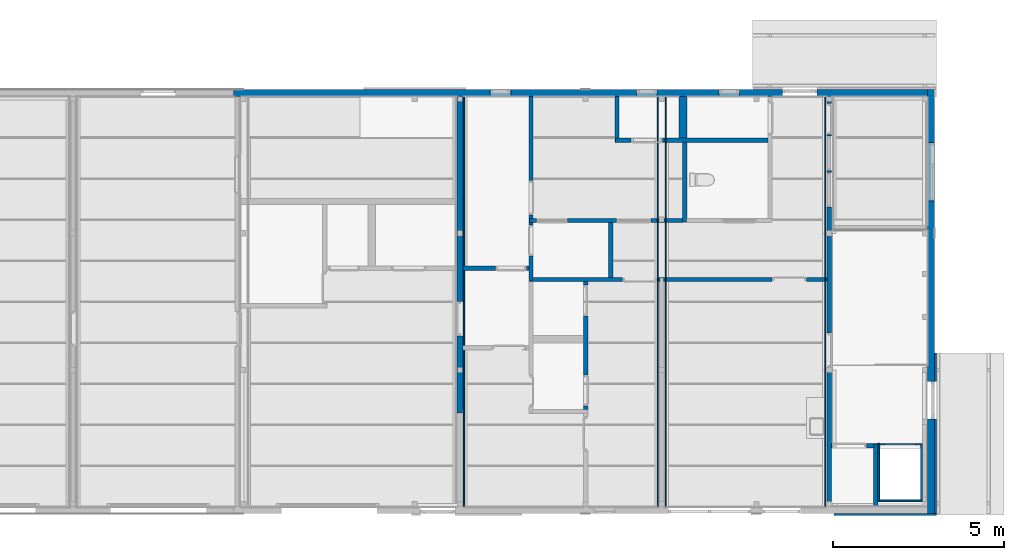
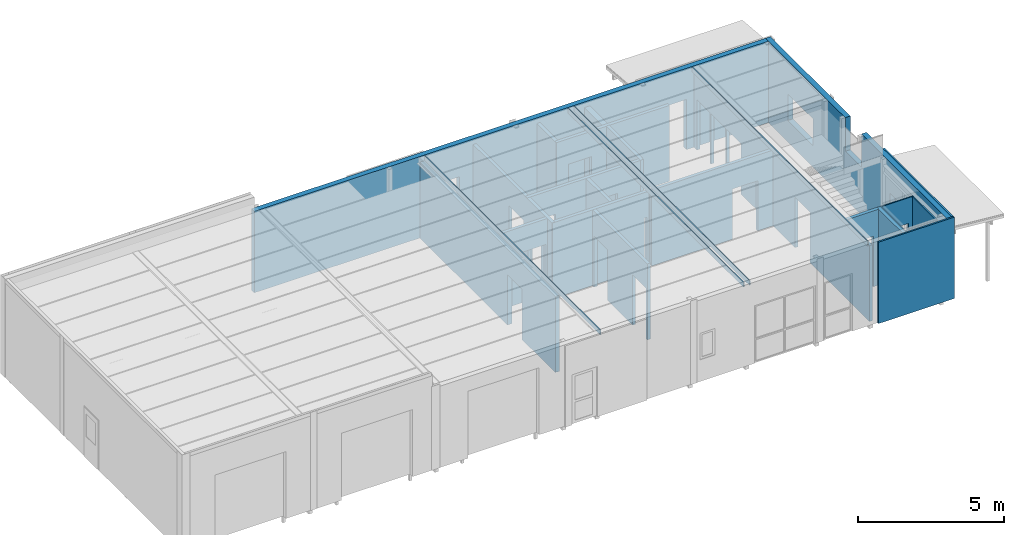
# One storey, part 3 of 45: 27 walls, 25 openings.
"""IFC2X3 building model written with IfcOpenShell, lengths in millimetres."""

from ifc_helpers import new_model, entity, si_unit, converted_unit, frame, frame_2d, origin, origin_with_axes, place, context, subcontext, project, spatial, polyline, rectangle, outline, extrude, material, layer, layer_set, layer_usage, element, save


model = new_model("IFC2X3")

# Units and contexts
model_context = context("Model", 3, precision=1e-05, world=origin())
plan_context = context("Plan", 3, precision=1e-05, world=origin())
body_context = subcontext(model_context, "Body", "Model", "MODEL_VIEW")
ifc_project = project(units=[si_unit("LENGTHUNIT", "METRE", prefix="MILLI"), converted_unit("PLANEANGLEUNIT", "DEGREE", entity("IfcPlaneAngleMeasure", 0.0174532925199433), si_unit("PLANEANGLEUNIT", "RADIAN"), dimensions=[0, 0, 0, 0, 0, 0, 0]), si_unit("AREAUNIT", "SQUARE_METRE"), si_unit("VOLUMEUNIT", "CUBIC_METRE")], contexts=[model_context, plan_context])

# Building, storey
building_placement = place(None, origin())
building = spatial("IfcBuilding", under=ifc_project, at=building_placement, Name="HEKF Administrasjonbygg", CompositionType="ELEMENT")
storey_placement = place(building_placement, frame((0.0, 0.0, 6500.0), z_axis=(0.0, 0.0, 1.0), x_axis=(1.0, 0.0, 0.0)))
storey = spatial("IfcBuildingStorey", under=building, at=storey_placement, Name="Plan 1", CompositionType="ELEMENT", Elevation=6500.0)

# Wall, openings
ifc_material_1 = material(Name="Paroc 200")
ifc_layer_1 = layer(ifc_material_1, 200.0)
ifc_layer_set_1 = layer_set([ifc_layer_1])
ifc_layer_usage_1 = layer_usage(ifc_layer_set_1, "AXIS2", "POSITIVE", 0.0)
wall_1_placement = place(storey_placement, frame((30000.0, 200.0, 0.0), z_axis=(0.0, 0.0, 1.0), x_axis=(0.0, -1.0, 0.0)))
wall_1 = element("IfcWallStandardCase", 1, at=wall_1_placement, inside=storey, material=ifc_layer_usage_1, context=body_context, shape_type="SweptSolid", body=[
    extrude(rectangle(XDim=12400.0, YDim=200.0, at=frame_2d((6200.000000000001, 100.0), x_axis=(1.0, 0.0))), origin_with_axes(), (0.0, 0.0, 1.0), 3400.0),
])
opening_1_placement = place(wall_1_placement, frame((5466.053432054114, 0.0, 2000.0), z_axis=(0.0, 1.0, 0.0), x_axis=(0.0, 0.0, 1.0)))
element("IfcOpeningElement", 2, at=opening_1_placement, cuts=wall_1, Name="V013", ObjectType="Opening", context=body_context, shape_type="SweptSolid", body=[
    extrude(rectangle(XDim=2410.0, YDim=1110.0, at=frame_2d((1205.0, 555.0), x_axis=(1.0, 0.0))), origin_with_axes(), (0.0, 0.0, 1.0), 200.0),
])
opening_2_placement = place(wall_1_placement, frame((8531.624074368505, 0.0, 0.0), z_axis=(0.0, 1.0, 0.0), x_axis=(0.0, 0.0, 1.0)))
element("IfcOpeningElement", 3, at=opening_2_placement, cuts=wall_1, Name="D003", ObjectType="Opening", context=body_context, shape_type="SweptSolid", body=[
    extrude(rectangle(XDim=2100.0, YDim=1110.0, at=frame_2d((1050.0, 555.0), x_axis=(1.0, 0.0))), origin_with_axes(), (0.0, 0.0, 1.0), 200.0),
])
opening_3_placement = place(wall_1_placement, frame((1545.561780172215, 0.0, 900.0), z_axis=(0.0, 1.0, 0.0), x_axis=(0.0, 0.0, 1.0)))
element("IfcOpeningElement", 4, at=opening_3_placement, cuts=wall_1, Name="V005", ObjectType="Opening", context=body_context, shape_type="SweptSolid", body=[
    extrude(rectangle(XDim=1110.0, YDim=1710.0, at=frame_2d((555.0, 855.0), x_axis=(1.0, 0.0))), origin_with_axes(), (0.0, 0.0, 1.0), 200.0),
])

# Wall, opening
ifc_material_2 = material(Name="Lekter")
ifc_layer_2 = layer(ifc_material_2, 46.0)
ifc_material_3 = material(Name="Kledning")
ifc_layer_3 = layer(ifc_material_3, 19.0)
ifc_layer_set_2 = layer_set([ifc_layer_2, ifc_layer_3])
ifc_layer_usage_2 = layer_usage(ifc_layer_set_2, "AXIS2", "POSITIVE", 0.0)
wall_2_placement = place(storey_placement, frame((30200.0, -7500.0, 0.0), z_axis=(0.0, 0.0, 1.0), x_axis=(0.0, -1.0, 0.0)))
wall_2 = element("IfcWallStandardCase", 5, at=wall_2_placement, inside=storey, material=ifc_layer_usage_2, context=body_context, shape_type="SweptSolid", body=[
    extrude(outline(polyline([(0.0, 0.0), (4700.000000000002, 0.0), (4700.000000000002, 46.0), (4746.000000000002, 46.0), (4746.000000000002, 65.0), (0.0, 65.0), (0.0, 0.0)])), origin_with_axes(), (0.0, 0.0, 1.0), 3400.0),
])
opening_4_placement = place(wall_2_placement, frame((830.6077025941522, 0.0, 0.0), z_axis=(0.0, 1.0, 0.0), x_axis=(0.0, 0.0, 1.0)))
element("IfcOpeningElement", 6, at=opening_4_placement, cuts=wall_2, Name="Door opening", ObjectType="Opening", context=body_context, shape_type="SweptSolid", body=[
    extrude(rectangle(XDim=2100.0, YDim=1110.0, at=frame_2d((1050.0, 555.0), x_axis=(1.0, 0.0))), origin_with_axes(), (0.0, 0.0, 1.0), 65.0),
])

# Wall
ifc_material_4 = material(Name="Lekter")
ifc_layer_4 = layer(ifc_material_4, 46.0)
ifc_material_5 = material(Name="Kledning")
ifc_layer_5 = layer(ifc_material_5, 19.0)
ifc_layer_set_3 = layer_set([ifc_layer_4, ifc_layer_5])
ifc_layer_usage_3 = layer_usage(ifc_layer_set_3, "AXIS2", "POSITIVE", 0.0)
wall_3_placement = place(storey_placement, frame((30246.0, -12200.0, 0.0), z_axis=(0.0, 0.0, 1.0), x_axis=(-1.0, 0.0, 0.0)))
element("IfcWallStandardCase", 7, at=wall_3_placement, inside=storey, material=ifc_layer_usage_3, context=body_context, shape_type="SweptSolid", body=[
    extrude(outline(polyline([(-19.0, 65.0), (-19.0, 46.0), (0.0, 46.0), (0.0, 0.0), (2981.0, 0.0), (2981.0, 65.0), (-19.0, 65.0)])), origin_with_axes(), (0.0, 0.0, 1.0), 3400.0),
])

# Wall, openings
ifc_material_6 = material(Name="Paroc 200")
ifc_layer_6 = layer(ifc_material_6, 200.0)
ifc_layer_set_4 = layer_set([ifc_layer_6])
ifc_layer_usage_4 = layer_usage(ifc_layer_set_4, "AXIS2", "POSITIVE", 0.0)
wall_4_placement = place(storey_placement, frame((9700.0, 0.0, 0.0), z_axis=(0.0, 0.0, 1.0), x_axis=(1.0, 0.0, 0.0)))
wall_4 = element("IfcWallStandardCase", 8, at=wall_4_placement, inside=storey, material=ifc_layer_usage_4, context=body_context, shape_type="SweptSolid", body=[
    extrude(rectangle(XDim=20300.0, YDim=200.0, at=frame_2d((10150.0, 100.0), x_axis=(1.0, 0.0))), origin_with_axes(), (0.0, 0.0, 1.0), 3400.0),
])
opening_5_placement = place(wall_4_placement, frame((14196.02524509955, 0.0, 900.0), z_axis=(0.0, 1.0, 0.0), x_axis=(0.0, 0.0, 1.0)))
element("IfcOpeningElement", 9, at=opening_5_placement, cuts=wall_4, Name="Window opening", ObjectType="Opening", context=body_context, shape_type="SweptSolid", body=[
    extrude(rectangle(XDim=1110.0, YDim=610.0, at=frame_2d((555.0, 305.0), x_axis=(1.0, 0.0))), origin_with_axes(), (0.0, 0.0, 1.0), 200.0),
])
opening_6_placement = place(wall_4_placement, frame((11783.83890219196, 0.0, 900.0), z_axis=(0.0, 1.0, 0.0), x_axis=(0.0, 0.0, 1.0)))
element("IfcOpeningElement", 10, at=opening_6_placement, cuts=wall_4, Name="Window opening", ObjectType="Opening", context=body_context, shape_type="SweptSolid", body=[
    extrude(rectangle(XDim=1110.0, YDim=610.0, at=frame_2d((555.0, 305.0), x_axis=(1.0, 0.0))), origin_with_axes(), (0.0, 0.0, 1.0), 200.0),
])
opening_7_placement = place(wall_4_placement, frame((7500.0, 0.0, 900.0), z_axis=(0.0, 1.0, 0.0), x_axis=(0.0, 0.0, 1.0)))
element("IfcOpeningElement", 11, at=opening_7_placement, cuts=wall_4, Name="V008", ObjectType="Opening", context=body_context, shape_type="SweptSolid", body=[
    extrude(rectangle(XDim=1110.0, YDim=610.0, at=frame_2d((555.0, 305.0), x_axis=(1.0, 0.0))), origin_with_axes(), (0.0, 0.0, 1.0), 200.0),
])
opening_8_placement = place(wall_4_placement, frame((16063.51368374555, 0.0, 0.0), z_axis=(0.0, 1.0, 0.0), x_axis=(0.0, 0.0, 1.0)))
element("IfcOpeningElement", 12, at=opening_8_placement, cuts=wall_4, Name="D004", ObjectType="Opening", context=body_context, shape_type="SweptSolid", body=[
    extrude(rectangle(XDim=2100.0, YDim=1010.0, at=frame_2d((1050.0, 505.0), x_axis=(1.0, 0.0))), origin_with_axes(), (0.0, 0.0, 1.0), 200.0),
])

# Wall, opening
ifc_material_7 = material(Name="gips")
ifc_layer_7 = layer(ifc_material_7, 13.0)
ifc_material_8 = material(Name="riegel stål 100")
ifc_layer_8 = layer(ifc_material_8, 150.0)
ifc_material_9 = material(Name="gips")
ifc_layer_9 = layer(ifc_material_9, 13.0)
ifc_layer_set_5 = layer_set([ifc_layer_7, ifc_layer_8, ifc_layer_9])
ifc_layer_usage_5 = layer_usage(ifc_layer_set_5, "AXIS2", "POSITIVE", -13.0)
wall_5_placement = place(storey_placement, frame((16237.0, -1.13686837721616e-13, 0.0), z_axis=(0.0, 0.0, 1.0), x_axis=(0.0, -1.0, 0.0)))
wall_5 = element("IfcWallStandardCase", 13, at=wall_5_placement, inside=storey, material=ifc_layer_usage_5, context=body_context, shape_type="SweptSolid", body=[
    extrude(outline(polyline([(0.0, 0.0), (2987.0, 0.0), (2987.0, 13.0), (3000.0, 13.0), (3000.0, 0.0), (9276.00000000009, 0.0), (9276.00000000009, 13.0), (9263.00000000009, 13.0), (9263.00000000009, 163.0), (9163.00000000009, 163.0), (9163.00000000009, 176.0), (0.0, 176.0), (0.0, 0.0)])), origin_with_axes(), (0.0, 0.0, 1.0), 3170.0),
])
opening_9_placement = place(wall_5_placement, frame((5989.999999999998, 0.0, 0.0), z_axis=(0.0, 1.0, 0.0), x_axis=(0.0, 0.0, 1.0)))
element("IfcOpeningElement", 14, at=opening_9_placement, cuts=wall_5, Name="garasjeport med glassfelter:45x6", ObjectType="Opening", context=body_context, shape_type="SweptSolid", body=[
    extrude(rectangle(XDim=2100.0, YDim=1010.0, at=frame_2d((1050.0, 505.0), x_axis=(1.0, 0.0))), origin_with_axes(), (0.0, 0.0, 1.0), 176.0),
])

ifc_material_10 = material(Name="gips")
ifc_layer_10 = layer(ifc_material_10, 13.0)
ifc_material_11 = material(Name="riegel stål 100")
ifc_layer_11 = layer(ifc_material_11, 100.0)
ifc_material_12 = material(Name="gips")
ifc_layer_12 = layer(ifc_material_12, 13.0)
ifc_layer_set_6 = layer_set([ifc_layer_10, ifc_layer_11, ifc_layer_12])
ifc_layer_usage_6 = layer_usage(ifc_layer_set_6, "AXIS2", "POSITIVE", 0.0)
wall_6_placement = place(storey_placement, frame((18337.0, -4961.000000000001, 0.0), z_axis=(0.0, 0.0, 1.0), x_axis=(-1.0, 3.078277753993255e-16, 0.0)))
wall_6 = element("IfcWallStandardCase", 15, at=wall_6_placement, inside=storey, material=ifc_layer_usage_6, context=body_context, shape_type="SweptSolid", body=[
    extrude(outline(polyline([(1924.0, 125.9999999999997), (-3.878629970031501e-14, 126.0), (0.0, 0.0), (1924.0, -3.172340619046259e-13), (1924.0, 125.9999999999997)])), origin_with_axes(), (0.0, 0.0, 1.0), 3170.0),
])
opening_10_placement = place(wall_6_placement, frame((63.64611840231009, 0.0, 0.0), z_axis=(0.0, 1.0, 0.0), x_axis=(0.0, 0.0, 1.0)))
element("IfcOpeningElement", 16, at=opening_10_placement, cuts=wall_6, Name="D014", ObjectType="Opening", context=body_context, shape_type="SweptSolid", body=[
    extrude(rectangle(XDim=2100.0, YDim=910.0, at=frame_2d((1050.0, 455.0), x_axis=(1.0, 0.0))), origin_with_axes(), (0.0, 0.0, 1.0), 126.0),
])

# Walls
ifc_material_13 = material(Name="gips")
ifc_layer_13 = layer(ifc_material_13, 13.0)
ifc_material_14 = material(Name="riegel stål 100")
ifc_layer_14 = layer(ifc_material_14, 100.0)
ifc_material_15 = material(Name="gips")
ifc_layer_15 = layer(ifc_material_15, 13.0)
ifc_layer_set_7 = layer_set([ifc_layer_13, ifc_layer_14, ifc_layer_15])
ifc_layer_usage_7 = layer_usage(ifc_layer_set_7, "AXIS2", "POSITIVE", 0.0)
wall_7_placement = place(storey_placement, frame((20981.20588481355, -1211.0, 0.0), z_axis=(0.0, 0.0, 1.0), x_axis=(0.0, 1.0, 0.0)))
element("IfcWallStandardCase", 17, at=wall_7_placement, inside=storey, material=ifc_layer_usage_7, context=body_context, shape_type="SweptSolid", body=[
    extrude(outline(polyline([(-113.0, 126.0), (-113.0, 113.0), (-13.0, 113.0), (-13.0, 13.0), (0.0, 13.0), (0.0, 0.0), (1211.000000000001, 0.0), (1211.000000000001, 126.0), (-113.0, 126.0)])), origin_with_axes(), (0.0, 0.0, 1.0), 3170.0),
])
ifc_material_16 = material(Name="gips")
ifc_layer_16 = layer(ifc_material_16, 13.0)
ifc_material_17 = material(Name="riegel stål 100")
ifc_layer_17 = layer(ifc_material_17, 100.0)
ifc_material_18 = material(Name="gips")
ifc_layer_18 = layer(ifc_material_18, 13.0)
ifc_layer_set_8 = layer_set([ifc_layer_16, ifc_layer_17, ifc_layer_18])
ifc_layer_usage_8 = layer_usage(ifc_layer_set_8, "AXIS2", "POSITIVE", 0.0)
wall_8_placement = place(storey_placement, frame((22832.53680645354, -1324.0, 0.0), z_axis=(0.0, 0.0, 1.0), x_axis=(0.0, -1.0, 0.0)))
element("IfcWallStandardCase", 18, at=wall_8_placement, inside=storey, material=ifc_layer_usage_8, context=body_context, shape_type="SweptSolid", body=[
    extrude(outline(polyline([(0.0, 0.0), (2363.0, 0.0), (2363.0, 13.0), (2350.0, 13.0), (2350.0, 113.0), (2250.0, 113.0), (2250.0, 126.0), (0.0, 126.0), (0.0, 0.0)])), origin_with_axes(), (0.0, 0.0, 1.0), 3170.0),
])

# Wall, opening
ifc_material_19 = material(Name="gips")
ifc_layer_19 = layer(ifc_material_19, 13.0)
ifc_material_20 = material(Name="riegel stål 100")
ifc_layer_20 = layer(ifc_material_20, 100.0)
ifc_material_21 = material(Name="gips")
ifc_layer_21 = layer(ifc_material_21, 13.0)
ifc_layer_set_9 = layer_set([ifc_layer_19, ifc_layer_20, ifc_layer_21])
ifc_layer_usage_9 = layer_usage(ifc_layer_set_9, "AXIS2", "POSITIVE", -13.0)
wall_9_placement = place(storey_placement, frame((20855.20588481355, -1337.0, 0.0), z_axis=(0.0, 0.0, 1.0), x_axis=(1.0, -1.015666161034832e-16, 0.0)))
wall_9 = element("IfcWallStandardCase", 19, at=wall_9_placement, inside=storey, material=ifc_layer_usage_9, context=body_context, shape_type="SweptSolid", body=[
    extrude(outline(polyline([(113.0, 126.0), (113.0, 113.0), (12.99999999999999, 113.0), (13.0, 13.0), (-1.320366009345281e-15, 13.0), (0.0, 0.0), (1977.330921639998, -2.654286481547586e-14), (1977.330921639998, 12.99999999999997), (2103.330921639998, 12.99999999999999), (2103.330921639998, -1.374547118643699e-14), (4477.330921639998, 0.0), (4477.330921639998, 126.0), (113.0, 126.0)])), origin_with_axes(), (0.0, 0.0, 1.0), 3170.0),
])
opening_11_placement = place(wall_9_placement, frame((477.6137223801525, 0.0, 0.0), z_axis=(0.0, 1.0, 0.0), x_axis=(0.0, 0.0, 1.0)))
element("IfcOpeningElement", 20, at=opening_11_placement, cuts=wall_9, Name="Door opening", ObjectType="Opening", context=body_context, shape_type="SweptSolid", body=[
    extrude(rectangle(XDim=2110.0, YDim=910.0, at=frame_2d((1055.0, 455.0), x_axis=(1.0, 0.0))), origin_with_axes(), (0.0, 0.0, 1.0), 126.0000000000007),
])

# Wall
ifc_material_22 = material(Name="gips")
ifc_layer_22 = layer(ifc_material_22, 13.0)
ifc_material_23 = material(Name="bindingsverk 198")
ifc_layer_23 = layer(ifc_material_23, 198.0)
ifc_material_24 = material(Name="gips")
ifc_layer_24 = layer(ifc_material_24, 13.0)
ifc_layer_set_10 = layer_set([ifc_layer_22, ifc_layer_23, ifc_layer_24])
ifc_layer_usage_10 = layer_usage(ifc_layer_set_10, "AXIS2", "POSITIVE", -13.0)
wall_10_placement = place(storey_placement, frame((22734.53680645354, 4.547473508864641e-13, 0.0), z_axis=(0.0, 0.0, 1.0), x_axis=(0.0, -1.0, 0.0)))
element("IfcWallStandardCase", 21, at=wall_10_placement, inside=storey, material=ifc_layer_usage_10, context=body_context, shape_type="SweptSolid", body=[
    extrude(rectangle(XDim=1211.000000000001, YDim=224.0, at=frame_2d((605.5000000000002, 112.0), x_axis=(1.0, 0.0))), origin_with_axes(), (0.0, 0.0, 1.0), 3170.0),
])

# Wall, openings
ifc_material_25 = material(Name="gips")
ifc_layer_25 = layer(ifc_material_25, 13.00000000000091)
ifc_material_26 = material(Name="riegel stål 100")
ifc_layer_26 = layer(ifc_material_26, 100.0)
ifc_material_27 = material(Name="gips")
ifc_layer_27 = layer(ifc_material_27, 13.0)
ifc_layer_set_11 = layer_set([ifc_layer_25, ifc_layer_26, ifc_layer_27])
ifc_layer_usage_11 = layer_usage(ifc_layer_set_11, "AXIS2", "POSITIVE", 0.0)
wall_11_placement = place(storey_placement, frame((18350.0, -3687.0, 0.0), z_axis=(0.0, 0.0, 1.0), x_axis=(1.0, -6.397200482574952e-17, 0.0)))
wall_11 = element("IfcWallStandardCase", 22, at=wall_11_placement, inside=storey, material=ifc_layer_usage_11, context=body_context, shape_type="SweptSolid", body=[
    extrude(outline(polyline([(4482.536806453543, -1.679904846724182e-13), (4482.536806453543, 125.9999999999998), (-8.060472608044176e-15, 125.9999999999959), (0.0, 0.0), (4482.536806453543, -1.679904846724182e-13)])), origin_with_axes(), (0.0, 0.0, 1.0), 3170.0),
])
opening_12_placement = place(wall_11_placement, frame((2546.205884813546, 0.0, 0.0), z_axis=(0.0, 1.0, 0.0), x_axis=(0.0, 0.0, 1.0)))
element("IfcOpeningElement", 23, at=opening_12_placement, cuts=wall_11, Name="Door opening", ObjectType="Opening", context=body_context, shape_type="SweptSolid", body=[
    extrude(rectangle(XDim=2110.0, YDim=1010.0, at=frame_2d((1055.0, 505.0), x_axis=(1.0, 0.0))), origin_with_axes(), (0.0, 0.0, 1.0), 125.9999999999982),
])
opening_13_placement = place(wall_11_placement, frame((213.0, 0.0, 0.0), z_axis=(0.0, 1.0, 0.0), x_axis=(0.0, 0.0, 1.0)))
element("IfcOpeningElement", 24, at=opening_13_placement, cuts=wall_11, Name="D015", ObjectType="Opening", context=body_context, shape_type="SweptSolid", body=[
    extrude(rectangle(XDim=2100.0, YDim=910.0, at=frame_2d((1050.0, 455.0), x_axis=(1.0, 0.0))), origin_with_axes(), (0.0, 0.0, 1.0), 125.9999999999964),
])

# Wall, opening
ifc_material_28 = material(Name="gips")
ifc_layer_28 = layer(ifc_material_28, 12.96243743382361)
ifc_material_29 = material(Name="riegel stål 100")
ifc_layer_29 = layer(ifc_material_29, 100.0)
ifc_material_30 = material(Name="gips")
ifc_layer_30 = layer(ifc_material_30, 13.47275900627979)
ifc_layer_set_12 = layer_set([ifc_layer_28, ifc_layer_29, ifc_layer_30])
ifc_layer_usage_12 = layer_usage(ifc_layer_set_12, "AXIS2", "POSITIVE", 0.0)
wall_12_placement = place(storey_placement, frame((22175.26840322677, -5291.108359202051, 0.0), z_axis=(0.0, 0.0, 1.0), x_axis=(-0.9999999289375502, 0.0003769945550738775, 0.0)))
wall_12 = element("IfcWallStandardCase", 25, at=wall_12_placement, inside=storey, material=ifc_layer_usage_12, context=body_context, shape_type="SweptSolid", body=[
    extrude(outline(polyline([(12.95253861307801, 125.8965327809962), (12.95743954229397, 112.8965337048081), (-0.04255953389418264, 112.8916327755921), (0.0, 0.0), (1475.580939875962, 0.4479268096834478), (2225.268441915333, 0.3168333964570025), (2238.268443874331, 0.3140875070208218), (3712.268667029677, 0.0), (3712.263778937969, 12.96594684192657), (3725.263780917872, 12.96314549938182), (3725.226079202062, 112.9691339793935), (3825.226092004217, 112.954025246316), (3825.220670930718, 127.3337372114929), (12.95253861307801, 125.8965327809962)])), origin_with_axes(), (0.0, 0.0, 1.0), 3170.0),
])
opening_14_placement = place(wall_12_placement, frame((89.93617140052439, 0.02730099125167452, 0.0), z_axis=(0.0, 1.0, 0.0), x_axis=(0.0, 0.0, 1.0)))
element("IfcOpeningElement", 26, at=opening_14_placement, cuts=wall_12, Name="garasjeport med glassfelter:45x6", ObjectType="Opening", context=body_context, shape_type="SweptSolid", body=[
    extrude(rectangle(XDim=2110.0, YDim=1010.0, at=frame_2d((1055.0, 505.0), x_axis=(1.0, 0.0))), origin_with_axes(), (0.0, 0.0, 1.0), 125.9353653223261),
])

# Wall, openings
ifc_material_31 = material(Name="gips")
ifc_layer_31 = layer(ifc_material_31, 13.0)
ifc_material_32 = material(Name="riegel stål 100")
ifc_layer_32 = layer(ifc_material_32, 100.0)
ifc_material_33 = material(Name="gips")
ifc_layer_33 = layer(ifc_material_33, 13.0)
ifc_layer_set_13 = layer_set([ifc_layer_31, ifc_layer_32, ifc_layer_33])
ifc_layer_usage_13 = layer_usage(ifc_layer_set_13, "AXIS2", "POSITIVE", -13.0)
wall_13_placement = place(storey_placement, frame((20063.0, -9150.00000000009, 0.0), z_axis=(0.0, 0.0, 1.0), x_axis=(0.0, 1.0, 0.0)))
wall_13 = element("IfcWallStandardCase", 27, at=wall_13_placement, inside=storey, material=ifc_layer_usage_13, context=body_context, shape_type="SweptSolid", body=[
    extrude(rectangle(XDim=3733.000000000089, YDim=126.0, at=frame_2d((1866.500000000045, 63.0), x_axis=(1.0, 0.0))), origin_with_axes(), (0.0, 0.0, 1.0), 3170.0),
])
opening_15_placement = place(wall_13_placement, frame((100.0, 0.0, 0.0), z_axis=(0.0, 1.0, 0.0), x_axis=(0.0, 0.0, 1.0)))
element("IfcOpeningElement", 28, at=opening_15_placement, cuts=wall_13, Name="D017", ObjectType="Opening", context=body_context, shape_type="SweptSolid", body=[
    extrude(rectangle(XDim=2110.0, YDim=910.0, at=frame_2d((1055.0, 455.0), x_axis=(1.0, 0.0))), origin_with_axes(), (0.0, 0.0, 1.0), 126.0),
])
opening_16_placement = place(wall_13_placement, frame((2723.193418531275, 0.0, 0.0), z_axis=(0.0, 1.0, 0.0), x_axis=(0.0, 0.0, 1.0)))
element("IfcOpeningElement", 29, at=opening_16_placement, cuts=wall_13, Name="garasjeport med glassfelter:45x6", ObjectType="Opening", context=body_context, shape_type="SweptSolid", body=[
    extrude(rectangle(XDim=2110.0, YDim=910.0, at=frame_2d((1055.0, 455.0), x_axis=(1.0, 0.0))), origin_with_axes(), (0.0, 0.0, 1.0), 126.0),
])

ifc_material_34 = material(Name="gips")
ifc_layer_34 = layer(ifc_material_34, 13.0)
ifc_material_35 = material(Name="riegel stål 100")
ifc_layer_35 = layer(ifc_material_35, 100.0)
ifc_material_36 = material(Name="gips")
ifc_layer_36 = layer(ifc_material_36, 13.0)
ifc_layer_set_14 = layer_set([ifc_layer_34, ifc_layer_35, ifc_layer_36])
ifc_layer_usage_14 = layer_usage(ifc_layer_set_14, "AXIS2", "POSITIVE", -13.0)
wall_14_placement = place(storey_placement, frame((18463.0, -5302.674801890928, 0.0), z_axis=(0.0, 0.0, 1.0), x_axis=(0.0, 1.0, 0.0)))
wall_14 = element("IfcWallStandardCase", 30, at=wall_14_placement, inside=storey, material=ifc_layer_usage_14, context=body_context, shape_type="SweptSolid", body=[
    extrude(outline(polyline([(-99.99829331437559, 13.0), (0.007702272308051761, 13.0), (0.0, 0.0), (1615.674801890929, 0.0), (1615.674801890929, 113.0), (1741.674801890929, 113.0), (1741.674801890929, 0.0), (5302.674801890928, 0.0), (5302.674801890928, 126.0), (-114.3251981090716, 126.0), (-114.3251981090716, 113.0), (-99.9454851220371, 113.0), (-99.99829331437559, 13.0)])), origin_with_axes(), (0.0, 0.0, 1.0), 3170.0),
])
opening_17_placement = place(wall_14_placement, frame((634.8975306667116, 0.0, 0.0), z_axis=(0.0, 1.0, 0.0), x_axis=(0.0, 0.0, 1.0)))
element("IfcOpeningElement", 31, at=opening_17_placement, cuts=wall_14, Name="D020", ObjectType="Opening", context=body_context, shape_type="SweptSolid", body=[
    extrude(rectangle(XDim=2100.0, YDim=910.0, at=frame_2d((1050.0, 455.0), x_axis=(1.0, 0.0))), origin_with_axes(), (0.0, 0.0, 1.0), 126.0),
])
opening_18_placement = place(wall_14_placement, frame((1841.674801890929, 0.0, 0.0), z_axis=(0.0, 1.0, 0.0), x_axis=(0.0, 0.0, 1.0)))
element("IfcOpeningElement", 32, at=opening_18_placement, cuts=wall_14, Name="Door opening", ObjectType="Opening", context=body_context, shape_type="SweptSolid", body=[
    extrude(rectangle(XDim=2100.0, YDim=1010.0, at=frame_2d((1050.0, 505.0), x_axis=(1.0, 0.0))), origin_with_axes(), (0.0, 0.0, 1.0), 126.0),
])

# Wall
ifc_material_37 = material(Name="gips")
ifc_layer_37 = layer(ifc_material_37, 13.0)
ifc_material_38 = material(Name="riegel stål 100")
ifc_layer_38 = layer(ifc_material_38, 100.0)
ifc_material_39 = material(Name="gips")
ifc_layer_39 = layer(ifc_material_39, 13.0)
ifc_layer_set_15 = layer_set([ifc_layer_37, ifc_layer_38, ifc_layer_39])
ifc_layer_usage_15 = layer_usage(ifc_layer_set_15, "AXIS2", "POSITIVE", 0.0)
wall_15_placement = place(storey_placement, frame((20670.20588481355, -3687.0, 0.0), z_axis=(0.0, 0.0, 1.0), x_axis=(0.0, -1.0, 0.0)))
element("IfcWallStandardCase", 33, at=wall_15_placement, inside=storey, material=ifc_layer_usage_15, context=body_context, shape_type="SweptSolid", body=[
    extrude(rectangle(XDim=1603.855219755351, YDim=126.0, at=frame_2d((801.9276098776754, 63.0), x_axis=(1.0, 0.0))), origin_with_axes(), (0.0, 0.0, 1.0), 3170.0),
])

# Wall, opening
ifc_material_40 = material(Name="gips")
ifc_layer_40 = layer(ifc_material_40, 13.0)
ifc_material_41 = material(Name="riegel stål 100")
ifc_layer_41 = layer(ifc_material_41, 100.0)
ifc_material_42 = material(Name="gips")
ifc_layer_42 = layer(ifc_material_42, 13.0)
ifc_layer_set_16 = layer_set([ifc_layer_40, ifc_layer_41, ifc_layer_42])
ifc_layer_usage_16 = layer_usage(ifc_layer_set_16, "AXIS2", "POSITIVE", 0.0)
wall_16_placement = place(storey_placement, frame((22288.26840322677, -5417.0, 0.0), z_axis=(0.0, 0.0, 1.0), x_axis=(1.0, 0.0, 0.0)))
wall_16 = element("IfcWallStandardCase", 34, at=wall_16_placement, inside=storey, material=ifc_layer_usage_16, context=body_context, shape_type="SweptSolid", body=[
    extrude(outline(polyline([(-113.0, 126.0), (-113.0, 113.0), (-13.0, 113.0), (-13.0, 13.0), (0.0, 13.0), (0.0, 0.0), (4774.268403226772, 0.0), (4774.268403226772, 126.0), (-113.0, 126.0)])), origin_with_axes(), (0.0, 0.0, 1.0), 3170.0),
])
opening_19_placement = place(wall_16_placement, frame((3164.268403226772, 0.0, 0.0), z_axis=(0.0, 1.0, 0.0), x_axis=(0.0, 0.0, 1.0)))
element("IfcOpeningElement", 35, at=opening_19_placement, cuts=wall_16, Name="Door opening", ObjectType="Opening", context=body_context, shape_type="SweptSolid", body=[
    extrude(rectangle(XDim=2100.0, YDim=1010.0, at=frame_2d((1050.0, 505.0), x_axis=(1.0, 0.0))), origin_with_axes(), (0.0, 0.0, 1.0), 126.0),
])

ifc_material_43 = material(Name="Betong")
ifc_layer_43 = layer(ifc_material_43, 50.0)
ifc_layer_set_17 = layer_set([ifc_layer_43])
ifc_layer_usage_17 = layer_usage(ifc_layer_set_17, "AXIS2", "POSITIVE", 0.0)
wall_17_placement = place(storey_placement, frame((28600.0, -10200.0, -50.0), z_axis=(0.0, 0.0, 1.0), x_axis=(1.0, 0.0, 0.0)))
wall_17 = element("IfcWallStandardCase", 36, at=wall_17_placement, inside=storey, material=ifc_layer_usage_17, context=body_context, shape_type="SweptSolid", body=[
    extrude(rectangle(XDim=1250.0, YDim=50.0, at=frame_2d((625.0, 25.0), x_axis=(1.0, 0.0))), origin_with_axes(), (0.0, 0.0, 1.0), 3220.0),
])
opening_20_placement = place(wall_17_placement, frame((150.0, 0.0, 50.0), z_axis=(0.0, 1.0, 0.0), x_axis=(0.0, 0.0, 1.0)))
element("IfcOpeningElement", 37, at=opening_20_placement, cuts=wall_17, Name="Heisdør", ObjectType="Opening", context=body_context, shape_type="SweptSolid", body=[
    extrude(rectangle(XDim=2100.0, YDim=900.0, at=frame_2d((1050.0, 450.0), x_axis=(1.0, 0.0))), origin_with_axes(), (0.0, 0.0, 1.0), 50.0),
])

# Walls
ifc_material_44 = material(Name="Betong")
ifc_layer_44 = layer(ifc_material_44, 50.0)
ifc_layer_set_18 = layer_set([ifc_layer_44])
ifc_layer_usage_18 = layer_usage(ifc_layer_set_18, "AXIS2", "POSITIVE", 0.0)
wall_18_placement = place(storey_placement, frame((29850.0, -11800.0, -50.0), z_axis=(0.0, 0.0, 1.0), x_axis=(-1.0, 0.0, 0.0)))
element("IfcWallStandardCase", 38, at=wall_18_placement, inside=storey, material=ifc_layer_usage_18, context=body_context, shape_type="SweptSolid", body=[
    extrude(rectangle(XDim=1250.0, YDim=50.0, at=frame_2d((625.0, 25.0), x_axis=(1.0, 0.0))), origin_with_axes(), (0.0, 0.0, 1.0), 3220.0),
])
ifc_material_45 = material(Name="Betong")
ifc_layer_45 = layer(ifc_material_45, 50.0)
ifc_layer_set_19 = layer_set([ifc_layer_45])
ifc_layer_usage_19 = layer_usage(ifc_layer_set_19, "AXIS2", "POSITIVE", 0.0)
wall_19_placement = place(storey_placement, frame((29800.0, -10200.0, -50.0), z_axis=(0.0, 0.0, 1.0), x_axis=(0.0, -1.0, 0.0)))
element("IfcWallStandardCase", 39, at=wall_19_placement, inside=storey, material=ifc_layer_usage_19, context=body_context, shape_type="SweptSolid", body=[
    extrude(rectangle(XDim=1600.0, YDim=50.0, at=frame_2d((800.0, 25.0), x_axis=(1.0, 0.0))), origin_with_axes(), (0.0, 0.0, 1.0), 3220.0),
])
ifc_material_46 = material(Name="Betong")
ifc_layer_46 = layer(ifc_material_46, 49.99999999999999)
ifc_layer_set_20 = layer_set([ifc_layer_46])
ifc_layer_usage_20 = layer_usage(ifc_layer_set_20, "AXIS2", "POSITIVE", 0.0)
wall_20_placement = place(storey_placement, frame((28600.0, -11850.0, -50.0), z_axis=(0.0, 0.0, 1.0), x_axis=(0.0, 0.9999999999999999, 0.0)))
element("IfcWallStandardCase", 40, at=wall_20_placement, inside=storey, material=ifc_layer_usage_20, context=body_context, shape_type="SweptSolid", body=[
    extrude(rectangle(XDim=1700.0, YDim=49.99999999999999, at=frame_2d((850.0, 25.0), x_axis=(1.0, 0.0))), origin_with_axes(), (0.0, 0.0, 1.0), 3220.0),
])
ifc_material_47 = material(Name="gips")
ifc_layer_47 = layer(ifc_material_47, 13.0)
ifc_material_48 = material(Name="riegel stål 100")
ifc_layer_48 = layer(ifc_material_48, 100.0)
ifc_material_49 = material(Name="gips")
ifc_layer_49 = layer(ifc_material_49, 13.0)
ifc_layer_set_21 = layer_set([ifc_layer_47, ifc_layer_48, ifc_layer_49])
ifc_layer_usage_21 = layer_usage(ifc_layer_set_21, "AXIS2", "POSITIVE", 0.0)
wall_21_placement = place(storey_placement, frame((28550.0, -12000.0, 0.0), z_axis=(0.0, 0.0, 1.0), x_axis=(0.0, 1.0, 0.0)))
element("IfcWallStandardCase", 41, at=wall_21_placement, inside=storey, material=ifc_layer_usage_21, context=body_context, shape_type="SweptSolid", body=[
    extrude(outline(polyline([(0.0, 0.0), (1850.0, 0.0), (1850.0, 13.0), (1837.0, 13.0), (1837.0, 113.0), (1737.0, 113.0), (1737.0, 126.0), (0.0, 126.0), (0.0, 0.0)])), origin_with_axes(), (0.0, 0.0, 1.0), 3170.0),
])

# Wall, opening
ifc_material_50 = material(Name="gips")
ifc_layer_50 = layer(ifc_material_50, 13.0)
ifc_material_51 = material(Name="riegel stål 100")
ifc_layer_51 = layer(ifc_material_51, 100.0)
ifc_material_52 = material(Name="gips")
ifc_layer_52 = layer(ifc_material_52, 13.0)
ifc_layer_set_22 = layer_set([ifc_layer_50, ifc_layer_51, ifc_layer_52])
ifc_layer_usage_22 = layer_usage(ifc_layer_set_22, "AXIS2", "POSITIVE", 0.0)
wall_22_placement = place(storey_placement, frame((28537.0, -10150.0, 0.0), z_axis=(0.0, 0.0, 1.0), x_axis=(-1.0, 0.0, 0.0)))
wall_22 = element("IfcWallStandardCase", 42, at=wall_22_placement, inside=storey, material=ifc_layer_usage_22, context=body_context, shape_type="SweptSolid", body=[
    extrude(outline(polyline([(113.0, 126.0), (113.0, 113.0), (100.0, 113.0), (100.0, 13.0), (0.0, 13.0), (0.0, 0.0), (1348.463193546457, 0.0), (1348.463193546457, 126.0), (113.0, 126.0)])), origin_with_axes(), (0.0, 0.0, 1.0), 3170.0),
])
opening_21_placement = place(wall_22_placement, frame((323.4631935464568, 0.0, 0.0), z_axis=(0.0, 1.0, 0.0), x_axis=(0.0, 0.0, 1.0)))
element("IfcOpeningElement", 43, at=opening_21_placement, cuts=wall_22, Name="D030", ObjectType="Opening", context=body_context, shape_type="SweptSolid", body=[
    extrude(rectangle(XDim=2110.0, YDim=1010.0, at=frame_2d((1055.0, 505.0), x_axis=(1.0, 0.0))), origin_with_axes(), (0.0, 0.0, 1.0), 126.0),
])

# Wall, openings
ifc_material_53 = material(Name="gips")
ifc_layer_53 = layer(ifc_material_53, 13.0)
ifc_material_54 = material(Name="riegel stål 100")
ifc_layer_54 = layer(ifc_material_54, 100.0)
ifc_material_55 = material(Name="gips")
ifc_layer_55 = layer(ifc_material_55, 13.0)
ifc_layer_set_23 = layer_set([ifc_layer_53, ifc_layer_54, ifc_layer_55])
ifc_layer_usage_23 = layer_usage(ifc_layer_set_23, "AXIS2", "POSITIVE", 0.0)
wall_23_placement = place(storey_placement, frame((27188.53680645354, -12000.0, 0.0), z_axis=(0.0, 0.0, 1.0), x_axis=(0.0, 1.0, 0.0)))
wall_23 = element("IfcWallStandardCase", 44, at=wall_23_placement, inside=storey, material=ifc_layer_usage_23, context=body_context, shape_type="SweptSolid", body=[
    extrude(rectangle(XDim=12000.0, YDim=126.0, at=frame_2d((6000.0, 63.0), x_axis=(1.0, 0.0))), origin_with_axes(), (0.0, 0.0, 1.0), 3170.0),
])
opening_22_placement = place(wall_23_placement, frame((9830.0, 0.0, 0.0), z_axis=(0.0, 1.0, 0.0), x_axis=(0.0, 0.0, 1.0)))
element("IfcOpeningElement", 45, at=opening_22_placement, cuts=wall_23, Name="GF001", ObjectType="Opening", context=body_context, shape_type="SweptSolid", body=[
    extrude(rectangle(XDim=2110.0, YDim=1010.0, at=frame_2d((1055.0, 505.0), x_axis=(1.0, 0.0))), origin_with_axes(), (0.0, 0.0, 1.0), 126.0),
])
opening_23_placement = place(wall_23_placement, frame((8770.0, 0.0, 0.0), z_axis=(0.0, 1.0, 0.0), x_axis=(0.0, 0.0, 1.0)))
element("IfcOpeningElement", 46, at=opening_23_placement, cuts=wall_23, Name="GF002", ObjectType="Opening", context=body_context, shape_type="SweptSolid", body=[
    extrude(rectangle(XDim=2110.0, YDim=1010.0, at=frame_2d((1055.0, 505.0), x_axis=(1.0, 0.0))), origin_with_axes(), (0.0, 0.0, 1.0), 126.0),
])
opening_24_placement = place(wall_23_placement, frame((10890.0, 0.0, 0.0), z_axis=(0.0, 1.0, 0.0), x_axis=(0.0, 0.0, 1.0)))
element("IfcOpeningElement", 47, at=opening_24_placement, cuts=wall_23, Name="Door opening", ObjectType="Opening", context=body_context, shape_type="SweptSolid", body=[
    extrude(rectangle(XDim=2110.0, YDim=910.0, at=frame_2d((1055.0, 455.0), x_axis=(1.0, 0.0))), origin_with_axes(), (0.0, 0.0, 1.0), 126.0),
])
opening_25_placement = place(wall_23_placement, frame((4075.0, 0.0, 0.0), z_axis=(0.0, 1.0, 0.0), x_axis=(0.0, 0.0, 1.0)))
element("IfcOpeningElement", 48, at=opening_25_placement, cuts=wall_23, Name="Door opening", ObjectType="Opening", context=body_context, shape_type="SweptSolid", body=[
    extrude(rectangle(XDim=2100.0, YDim=1010.0, at=frame_2d((1050.0, 505.0), x_axis=(1.0, 0.0))), origin_with_axes(), (0.0, 0.0, 1.0), 126.0),
])

# Walls
ifc_material_56 = material(Name="Betong")
ifc_layer_56 = layer(ifc_material_56, 35.0)
ifc_layer_set_24 = layer_set([ifc_layer_56])
ifc_layer_usage_24 = layer_usage(ifc_layer_set_24, "AXIS2", "POSITIVE", 0.0)
wall_24_placement = place(storey_placement, frame((16460.0, -12000.0, 3170.0), z_axis=(0.0, 0.0, 1.0), x_axis=(0.0, 1.0, 0.0)))
element("IfcWallStandardCase", 49, at=wall_24_placement, inside=storey, material=ifc_layer_usage_24, context=body_context, shape_type="SweptSolid", body=[
    extrude(rectangle(XDim=12000.0, YDim=35.0, at=frame_2d((6000.0, 17.5), x_axis=(1.0, 0.0))), origin_with_axes(), (0.0, 0.0, 1.0), 200.0),
])
ifc_material_57 = material(Name="Betong")
ifc_layer_57 = layer(ifc_material_57, 35.0)
ifc_layer_set_25 = layer_set([ifc_layer_57])
ifc_layer_usage_25 = layer_usage(ifc_layer_set_25, "AXIS2", "POSITIVE", 0.0)
wall_25_placement = place(storey_placement, frame((22090.26840322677, 0.0, 3170.0), z_axis=(0.0, 0.0, 1.0), x_axis=(0.0, -1.0, 0.0)))
element("IfcWallStandardCase", 50, at=wall_25_placement, inside=storey, material=ifc_layer_usage_25, context=body_context, shape_type="SweptSolid", body=[
    extrude(rectangle(XDim=12000.0, YDim=35.0, at=frame_2d((6000.0, 17.5), x_axis=(1.0, 0.0))), origin_with_axes(), (0.0, 0.0, 1.0), 200.0),
])
ifc_material_58 = material(Name="Betong")
ifc_layer_58 = layer(ifc_material_58, 35.0)
ifc_layer_set_26 = layer_set([ifc_layer_58])
ifc_layer_usage_26 = layer_usage(ifc_layer_set_26, "AXIS2", "POSITIVE", 0.0)
wall_26_placement = place(storey_placement, frame((22360.26840322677, -12000.0, 3170.0), z_axis=(0.0, 0.0, 1.0), x_axis=(0.0, 1.0, 0.0)))
element("IfcWallStandardCase", 51, at=wall_26_placement, inside=storey, material=ifc_layer_usage_26, context=body_context, shape_type="SweptSolid", body=[
    extrude(rectangle(XDim=12000.0, YDim=35.0, at=frame_2d((6000.0, 17.5), x_axis=(1.0, 0.0))), origin_with_axes(), (0.0, 0.0, 1.0), 200.0),
])
ifc_material_59 = material(Name="Betong")
ifc_layer_59 = layer(ifc_material_59, 35.0)
ifc_layer_set_27 = layer_set([ifc_layer_59])
ifc_layer_usage_27 = layer_usage(ifc_layer_set_27, "AXIS2", "POSITIVE", 0.0)
wall_27_placement = place(storey_placement, frame((26990.53680645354, 0.0, 3170.0), z_axis=(0.0, 0.0, 1.0), x_axis=(0.0, -1.0, 0.0)))
element("IfcWallStandardCase", 52, at=wall_27_placement, inside=storey, material=ifc_layer_usage_27, context=body_context, shape_type="SweptSolid", body=[
    extrude(rectangle(XDim=12000.0, YDim=35.0, at=frame_2d((6000.0, 17.5), x_axis=(1.0, 0.0))), origin_with_axes(), (0.0, 0.0, 1.0), 200.0),
])

save(model, "model.ifc")
